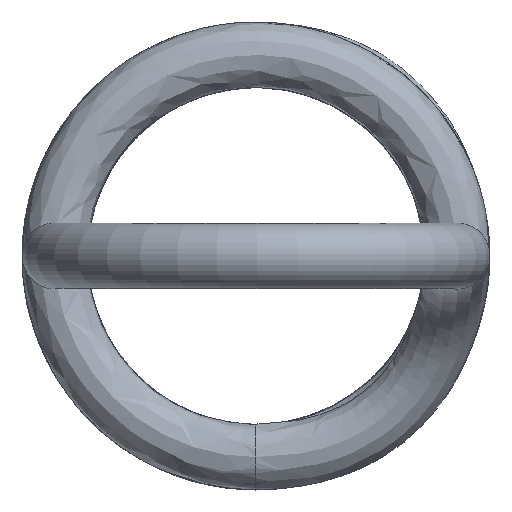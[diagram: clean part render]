
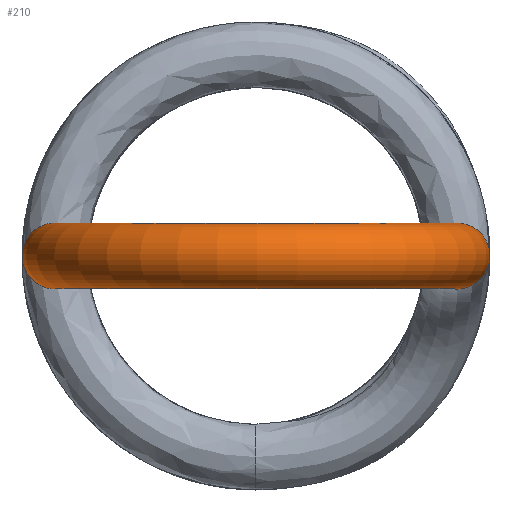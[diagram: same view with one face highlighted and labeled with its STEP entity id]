
A CAD part, front view. The second image highlights one B-rep face of the part: STEP entity #210.
In plain terms, the highlighted toroidal (fillet/blend) face has major radius 13.75 mm and minor radius 2.25 mm.
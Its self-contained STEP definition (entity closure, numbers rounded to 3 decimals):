
#15=TOROIDAL_SURFACE('',#248,13.75,2.25);
#22=CIRCLE('',#244,2.25);
#23=CIRCLE('',#245,2.25);
#24=CIRCLE('',#247,2.25);
#25=CIRCLE('',#249,11.5);
#40=FACE_OUTER_BOUND('',#51,.T.);
#51=EDGE_LOOP('',(#150,#151,#152,#153,#154));
#87=VERTEX_POINT('',#680);
#88=VERTEX_POINT('',#691);
#91=VERTEX_POINT('',#754);
#110=EDGE_CURVE('',#88,#87,#22,.T.);
#111=EDGE_CURVE('',#87,#88,#23,.T.);
#114=EDGE_CURVE('',#91,#91,#24,.T.);
#115=EDGE_CURVE('',#91,#88,#25,.T.);
#150=ORIENTED_EDGE('',*,*,#114,.F.);
#151=ORIENTED_EDGE('',*,*,#115,.T.);
#152=ORIENTED_EDGE('',*,*,#110,.T.);
#153=ORIENTED_EDGE('',*,*,#111,.T.);
#154=ORIENTED_EDGE('',*,*,#115,.F.);
#210=ADVANCED_FACE('',(#40),#15,.T.);
#244=AXIS2_PLACEMENT_3D('',#692,#270,#271);
#245=AXIS2_PLACEMENT_3D('',#693,#272,#273);
#247=AXIS2_PLACEMENT_3D('',#755,#276,#277);
#248=AXIS2_PLACEMENT_3D('',#756,#278,#279);
#249=AXIS2_PLACEMENT_3D('',#757,#280,#281);
#270=DIRECTION('center_axis',(0.,-1.,0.));
#271=DIRECTION('ref_axis',(-0.42,0.,-0.908));
#272=DIRECTION('center_axis',(0.,-1.,0.));
#273=DIRECTION('ref_axis',(-0.42,0.,-0.908));
#276=DIRECTION('center_axis',(0.163,0.987,0.));
#277=DIRECTION('ref_axis',(0.414,-0.068,-0.908));
#278=DIRECTION('center_axis',(0.,0.,
-1.));
#279=DIRECTION('ref_axis',(-0.082,-0.997,0.));
#280=DIRECTION('center_axis',(0.,0.,
1.));
#281=DIRECTION('ref_axis',(-0.082,-0.997,0.));
#680=CARTESIAN_POINT('',(12.805,-76.25,-2.042));
#691=CARTESIAN_POINT('',(11.5,-76.25,0.));
#692=CARTESIAN_POINT('Origin',(13.75,-76.25,0.));
#693=CARTESIAN_POINT('Origin',(13.75,-76.25,0.));
#754=CARTESIAN_POINT('',(-11.346,-74.374,0.));
#755=CARTESIAN_POINT('Origin',(-13.566,-74.008,0.));
#756=CARTESIAN_POINT('Origin',(0.,-76.25,0.));
#757=CARTESIAN_POINT('Origin',(0.,-76.25,0.));
